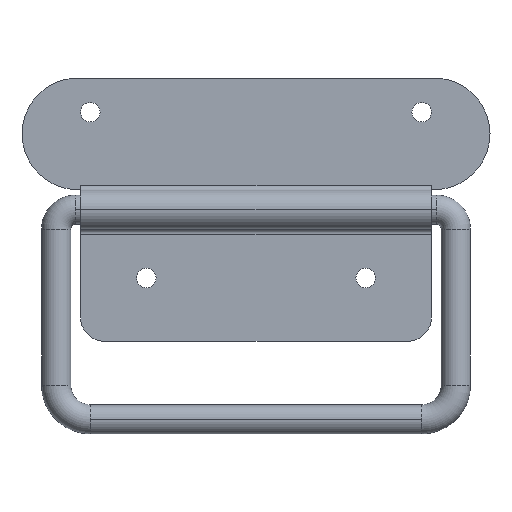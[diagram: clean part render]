
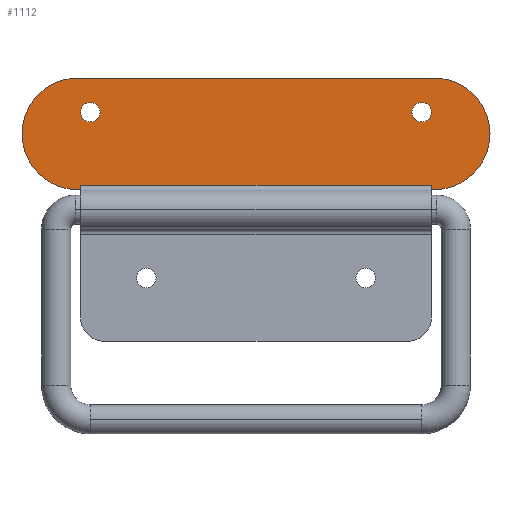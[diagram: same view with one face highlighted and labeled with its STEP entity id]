
A CAD part, left-side view. The second image highlights one B-rep face of the part: STEP entity #1112.
In plain terms, the highlighted planar face has unit normal (-1, 0, 0).
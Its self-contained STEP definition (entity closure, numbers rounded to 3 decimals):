
#750=CARTESIAN_POINT('',(0.,14.,-4.45));
#751=VERTEX_POINT('',#750);
#767=CARTESIAN_POINT('',(0.,2.,-15.9));
#768=VERTEX_POINT('',#767);
#775=CARTESIAN_POINT('',(0.,2.538,-4.45));
#776=DIRECTION('',(-1.0,0.0,0.0));
#777=DIRECTION('',(0.0,-1.0,0.0));
#778=AXIS2_PLACEMENT_3D('',#775,#776,#777);
#779=CIRCLE('',#778,11.463);
#780=EDGE_CURVE('',#751,#768,#779,.T.);
#832=CARTESIAN_POINT('',(0.,-82.,-4.45));
#833=VERTEX_POINT('',#832);
#842=CARTESIAN_POINT('',(0.,-70.0,-15.9));
#843=VERTEX_POINT('',#842);
#844=CARTESIAN_POINT('',(0.,-70.538,-4.45));
#845=DIRECTION('',(-1.0,0.0,0.0));
#846=DIRECTION('',(0.0,1.0,0.0));
#847=AXIS2_PLACEMENT_3D('',#844,#845,#846);
#848=CIRCLE('',#847,11.463);
#849=EDGE_CURVE('',#843,#833,#848,.T.);
#958=CARTESIAN_POINT('',(0.0,-70.0,0.));
#959=VERTEX_POINT('',#958);
#968=CARTESIAN_POINT('',(0.,-66.0,0.));
#969=VERTEX_POINT('',#968);
#970=CARTESIAN_POINT('',(0.0,-68.0,0.));
#971=DIRECTION('',(1.0,0.0,0.0));
#972=DIRECTION('',(0.0,-1.0,0.0));
#973=AXIS2_PLACEMENT_3D('',#970,#971,#972);
#974=CIRCLE('',#973,2.0);
#975=EDGE_CURVE('',#969,#959,#974,.T.);
#1000=CARTESIAN_POINT('',(0.0,-2.0,0.0));
#1001=VERTEX_POINT('',#1000);
#1010=CARTESIAN_POINT('',(0.,2.0,0.));
#1011=VERTEX_POINT('',#1010);
#1012=CARTESIAN_POINT('',(0.0,0.0,0.0));
#1013=DIRECTION('',(1.0,0.0,0.0));
#1014=DIRECTION('',(0.0,-1.0,0.0));
#1015=AXIS2_PLACEMENT_3D('',#1012,#1013,#1014);
#1016=CIRCLE('',#1015,2.0);
#1017=EDGE_CURVE('',#1011,#1001,#1016,.T.);
#1037=CARTESIAN_POINT('',(0.0,-82.5,7.));
#1038=DIRECTION('',(-1.0,0.0,0.0));
#1039=DIRECTION('',(0.0,0.0,1.0));
#1040=AXIS2_PLACEMENT_3D('',#1037,#1038,#1039);
#1041=PLANE('',#1040);
#1042=CARTESIAN_POINT('',(0.0,3.075,7.0));
#1043=VERTEX_POINT('',#1042);
#1044=CARTESIAN_POINT('',(0.,2.538,-4.45));
#1045=DIRECTION('',(-1.0,0.0,0.0));
#1046=DIRECTION('',(0.0,-1.0,0.0));
#1047=AXIS2_PLACEMENT_3D('',#1044,#1045,#1046);
#1048=CIRCLE('',#1047,11.463);
#1049=EDGE_CURVE('',#1043,#751,#1048,.T.);
#1050=ORIENTED_EDGE('',*,*,#1049,.T.);
#1051=ORIENTED_EDGE('',*,*,#780,.T.);
#1052=CARTESIAN_POINT('',(0.,2.0,-15.));
#1053=VERTEX_POINT('',#1052);
#1054=CARTESIAN_POINT('',(0.,2.0,-15.));
#1055=DIRECTION('',(0.0,0.0,-1.0));
#1056=VECTOR('',#1055,0.9);
#1057=LINE('',#1054,#1056);
#1058=EDGE_CURVE('',#1053,#768,#1057,.T.);
#1059=ORIENTED_EDGE('',*,*,#1058,.F.);
#1060=CARTESIAN_POINT('',(0.,-70.0,-15.));
#1061=VERTEX_POINT('',#1060);
#1062=CARTESIAN_POINT('',(0.,-70.0,-15.));
#1063=DIRECTION('',(0.0,1.0,0.0));
#1064=VECTOR('',#1063,72.0);
#1065=LINE('',#1062,#1064);
#1066=EDGE_CURVE('',#1061,#1053,#1065,.T.);
#1067=ORIENTED_EDGE('',*,*,#1066,.F.);
#1068=CARTESIAN_POINT('',(0.,-70.0,-15.9));
#1069=DIRECTION('',(0.0,0.0,1.0));
#1070=VECTOR('',#1069,0.9);
#1071=LINE('',#1068,#1070);
#1072=EDGE_CURVE('',#843,#1061,#1071,.T.);
#1073=ORIENTED_EDGE('',*,*,#1072,.F.);
#1074=ORIENTED_EDGE('',*,*,#849,.T.);
#1075=CARTESIAN_POINT('',(0.0,-71.075,7.));
#1076=VERTEX_POINT('',#1075);
#1077=CARTESIAN_POINT('',(0.,-70.538,-4.45));
#1078=DIRECTION('',(-1.0,0.0,0.0));
#1079=DIRECTION('',(0.0,1.0,0.0));
#1080=AXIS2_PLACEMENT_3D('',#1077,#1078,#1079);
#1081=CIRCLE('',#1080,11.463);
#1082=EDGE_CURVE('',#833,#1076,#1081,.T.);
#1083=ORIENTED_EDGE('',*,*,#1082,.T.);
#1084=CARTESIAN_POINT('',(0.0,-71.075,7.));
#1085=DIRECTION('',(0.0,1.0,0.0));
#1086=VECTOR('',#1085,74.15);
#1087=LINE('',#1084,#1086);
#1088=EDGE_CURVE('',#1076,#1043,#1087,.T.);
#1089=ORIENTED_EDGE('',*,*,#1088,.T.);
#1090=EDGE_LOOP('',(#1050,#1051,#1059,#1067,#1073,#1074,#1083,#1089));
#1091=FACE_OUTER_BOUND('',#1090,.T.);
#1092=CARTESIAN_POINT('',(0.0,0.0,0.0));
#1093=DIRECTION('',(1.0,0.0,0.0));
#1094=DIRECTION('',(0.0,-1.0,0.0));
#1095=AXIS2_PLACEMENT_3D('',#1092,#1093,#1094);
#1096=CIRCLE('',#1095,2.0);
#1097=EDGE_CURVE('',#1001,#1011,#1096,.T.);
#1098=ORIENTED_EDGE('',*,*,#1097,.T.);
#1099=ORIENTED_EDGE('',*,*,#1017,.T.);
#1100=EDGE_LOOP('',(#1098,#1099));
#1101=FACE_BOUND('',#1100,.T.);
#1102=CARTESIAN_POINT('',(0.0,-68.0,0.));
#1103=DIRECTION('',(1.0,0.0,0.0));
#1104=DIRECTION('',(0.0,-1.0,0.0));
#1105=AXIS2_PLACEMENT_3D('',#1102,#1103,#1104);
#1106=CIRCLE('',#1105,2.0);
#1107=EDGE_CURVE('',#959,#969,#1106,.T.);
#1108=ORIENTED_EDGE('',*,*,#1107,.T.);
#1109=ORIENTED_EDGE('',*,*,#975,.T.);
#1110=EDGE_LOOP('',(#1108,#1109));
#1111=FACE_BOUND('',#1110,.T.);
#1112=ADVANCED_FACE('',(#1091,#1101,#1111),#1041,.T.);
